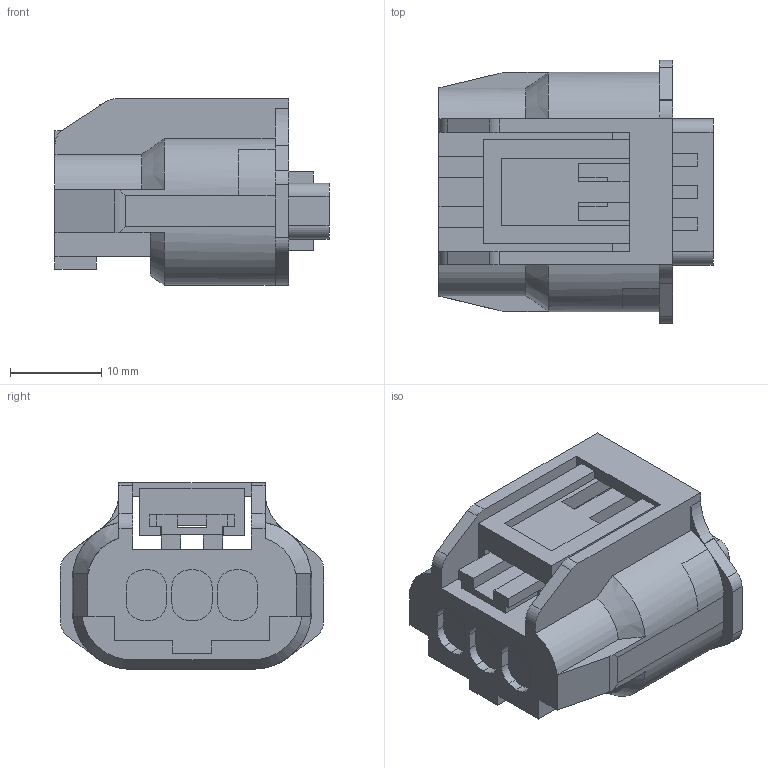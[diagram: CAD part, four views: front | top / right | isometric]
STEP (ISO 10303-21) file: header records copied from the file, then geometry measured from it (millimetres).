
FILE_DESCRIPTION(('CATIA V5 STEP Exchange','CAx-IF Rec.Pracs.--- Model Styling and Organization---1.2---2011-12-15'),'2;1');
FILE_NAME('\\Fss01.ad.sws.co.jp\fs030008\技術管理部\共通\業務\3D設計推進\カタログ用３Ｄ\仮置き\US(Sealed)\6189-7375(CPA close).stp','2016-02-18T02:22:24+00:00',('none'),('none'),'CATIA Version 5-6 Release 2013 SP5 HF43','CATIA V5 STEP AP214','none');
FILE_SCHEMA(('AUTOMOTIVE_DESIGN { 1 0 10303 214 1 1 1 1 }'));
Length unit declared in the file: millimetre
Products named in the file (1): 6189-7375
Bounding box: 30 x 28.8 x 20.4 mm (x, y, z)
Surface area: 6148.7 mm2 (no closed solid volume)
Topology: 0 solids, 1 shells, 257 faces, 789 edges, 534 vertices
Faces by surface type: plane 185, cylinder 66, cone 4, bspline 2
Entity records: 8725 total; most frequent: CARTESIAN_POINT 1712, ORIENTED_EDGE 1576, DIRECTION 1181, EDGE_CURVE 789, VECTOR 617, LINE 617, VERTEX_POINT 534, AXIS2_PLACEMENT_3D 351
